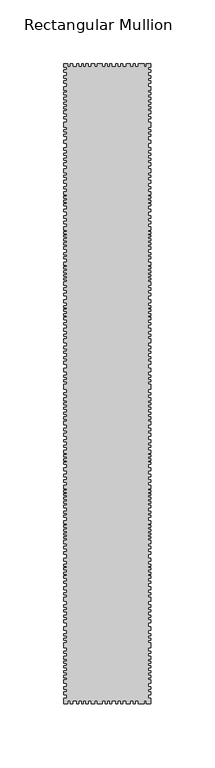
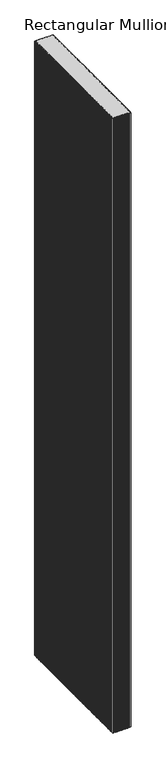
"""IFC4 building model written with IfcOpenShell, lengths in millimetres: member geometry, Rectangular Mullion : DucoSun Cubic Design louvre 500."""

from ifc_helpers import new_model, si_unit, frame, origin, place, context, project, spatial, polyline, outline, extrude, source, transform, mapped, element, save


def rectangular_mullion_85800288(model_context):
    return source(origin(), model_context, "Body", "SweptSolid", [
        extrude(outline(polyline([(0.0, 497.3782451), (-2.0, 497.3782451), (-2.0, 495.4241521), (0.0, 495.4241521), (0.0, 493.6532553), (-2.0, 493.6532553), (-2.0, 490.9460223), (0.0, 490.9460223), (0.0, 488.9105087), (-2.0, 488.9105087), (-2.0, 486.7121541), (0.0, 486.7121541), (0.0, 485.0023227), (-2.0, 485.0023227), (-2.0, 482.3561551), (0.0, 482.3561551), (0.0, 479.3843053), (-2.0, 479.3843053), (-2.0, 477.8917893), (0.0, 477.8917893), (0.0, 475.8425117), (-2.0, 475.8425117), (-2.0, 473.8680636), (0.0, 473.8680636), (0.0, 472.1582322), (-2.0, 472.1582322), (-2.0, 470.0820083), (0.0, 470.0820083), (0.0, 468.3111116), (-2.0, 468.3111116), (-2.0, 466.4995045), (0.0, 466.4995045), (0.0, 465.0713495), (-2.0, 465.0713495), (-2.0, 463.4577392), (0.0, 463.4577392), (0.0, 461.0328231), (-2.0, 461.0328231), (-2.0, 458.5725067), (0.0, 458.5725067), (0.0, 457.0325964), (-2.0, 457.0325964), (-2.0, 454.5014796), (0.0, 454.5014796), (0.0, 450.4127524), (-2.0, 450.4127524), (-2.0, 448.4126391), (0.0, 448.4126391), (0.0, 446.8373286), (-2.0, 446.8373286), (-2.0, 444.9965163), (0.0, 444.9965163), (0.0, 443.3504053), (-2.0, 443.3504053), (-2.0, 440.3767855), (0.0, 440.3767855), (0.0, 437.9545244), (-2.0, 437.9545244), (-2.0, 434.5552168), (0.0, 434.5552168), (0.0, 432.5197032), (-2.0, 432.5197032), (-2.0, 430.239928), (0.0, 430.239928), (0.0, 428.6929377), (-2.0, 428.6929377), (-2.0, 426.4335177), (0.0, 426.4335177), (0.0, 424.5608452), (-2.0, 424.5608452), (-2.0, 422.6271073), (0.0, 422.6271073), (0.0, 420.5508835), (-2.0, 420.5508835), (-2.0, 418.0064916), (0.0, 418.0064916), (0.0, 414.9328661), (-2.0, 414.9328661), (-2.0, 412.9177077), (0.0, 412.9177077), (0.0, 411.4114277), (-2.0, 411.4114277), (-2.0, 408.9688114), (0.0, 408.9688114), (0.0, 406.7118273), (-2.0, 406.7118273), (-2.0, 403.8852623), (0.0, 403.8852623), (0.0, 402.4316003), (-2.0, 402.4316003), (-2.0, 399.9011516), (0.0, 399.9011516), (0.0, 397.8552569), (-2.0, 397.8552569), (-2.0, 396.6169522), (0.0, 396.6169522), (0.0, 395.0825312), (-2.0, 395.0825312), (-2.0, 393.4673512), (0.0, 393.4673512), (0.0, 392.0675286), (-2.0, 392.0675286), (-2.0, 390.5869469), (0.0, 390.5869469), (0.0, 389.1602046), (-2.0, 389.1602046), (-2.0, 386.3310055), (0.0, 386.3310055), (0.0, 384.2608252), (-2.0, 384.2608252), (-2.0, 381.1919832), (0.0, 381.1919832), (0.0, 379.2537672), (-2.0, 379.2537672), (-2.0, 376.9360418), (0.0, 376.9360418), (0.0, 375.0004598), (-2.0, 375.0004598), (-2.0, 372.9007258), (0.0, 372.9007258), (0.0, 370.1010805), (-2.0, 370.1010805), (-2.0, 368.8089365), (0.0, 368.8089365), (0.0, 367.3014351), (-2.0, 367.3014351), (-2.0, 366.0362108), (0.0, 366.0362108), (0.0, 365.0401831), (-2.0, 365.0401831), (-2.0, 363.2096458), (0.0, 363.2096458), (0.0, 361.6483051), (-2.0, 361.6483051), (-2.0, 360.1408038), (0.0, 360.1408038), (0.0, 358.6063828), (-2.0, 358.6063828), (-2.0, 357.0719618), (0.0, 357.0719618), (0.0, 355.0799064), (-2.0, 355.0799064), (-2.0, 352.3762692), (0.0, 352.3762692), (0.0, 350.8903036), (-2.0, 350.8903036), (-2.0, 349.1257194), (0.0, 349.1257194), (0.0, 347.6087962), (-2.0, 347.6087962), (-2.0, 344.8535683), (0.0, 344.8535683), (0.0, 342.7484504), (-2.0, 342.7484504), (-2.0, 341.4172729), (0.0, 341.4172729), (0.0, 339.9622649), (-2.0, 339.9622649), (-2.0, 338.3524688), (0.0, 338.3524688), (0.0, 336.8355456), (-2.0, 336.8355456), (-2.0, 335.1947919), (0.0, 335.1947919), (0.0, 333.9255296), (-2.0, 333.9255296), (-2.0, 332.5014792), (0.0, 332.5014792), (0.0, 331.1083865), (-2.0, 331.1083865), (-2.0, 329.6843361), (0.0, 329.6843361), (0.0, 327.0529387), (-2.0, 327.0529387), (-2.0, 324.9787784), (0.0, 324.9787784), (0.0, 323.0284485), (-2.0, 323.0284485), (-2.0, 320.7995001), (0.0, 320.7995001), (0.0, 318.8182126), (-2.0, 318.8182126), (-2.0, 315.6914933), (0.0, 315.6914933), (0.0, 313.4935025), (-2.0, 313.4935025), (-2.0, 310.954978), (0.0, 310.954978), (0.0, 309.4070971), (-2.0, 309.4070971), (-2.0, 308.1378348), (0.0, 308.1378348), (0.0, 306.4970812), (-2.0, 306.4970812), (-2.0, 304.8253698), (0.0, 304.8253698), (0.0, 303.3394042), (-2.0, 303.3394042), (-2.0, 302.0391843), (0.0, 302.0391843), (0.0, 300.0578969), (-2.0, 300.0578969), (-2.0, 297.6741604), (0.0, 297.6741604), (0.0, 296.0953219), (-2.0, 296.0953219), (-2.0, 293.3091364), (0.0, 293.3091364), (0.0, 291.0182728), (-2.0, 291.0182728), (-2.0, 288.572621), (0.0, 288.572621), (0.0, 287.1485707), (-2.0, 287.1485707), (-2.0, 285.0124951), (0.0, 285.0124951), (0.0, 282.1643944), (-2.0, 282.1643944), (-2.0, 279.3782089), (0.0, 279.3782089), (0.0, 277.427879), (-2.0, 277.427879), (-2.0, 275.4156339), (0.0, 275.4156339), (0.0, 273.6510498), (-2.0, 273.6510498), (-2.0, 271.1744404), (0.0, 271.1744404), (0.0, 269.6884748), (-2.0, 269.6884748), (-2.0, 267.5523993), (0.0, 267.5523993), (0.0, 265.4163237), (-2.0, 265.4163237), (-2.0, 262.1967316), (0.0, 262.1967316), (0.0, 259.5343765), (-2.0, 259.5343765), (-2.0, 256.7791486), (0.0, 256.7791486), (0.0, 255.0764797), (-2.0, 255.0764797), (-2.0, 252.9404041), (0.0, 252.9404041), (0.0, 251.6092266), (-2.0, 251.6092266), (-2.0, 249.5660239), (0.0, 249.5660239), (0.0, 245.512038), (-2.0, 245.512038), (-2.0, 243.0030092), (0.0, 243.0030092), (0.0, 241.3312979), (-2.0, 241.3312979), (-2.0, 239.0404342), (0.0, 239.0404342), (0.0, 236.5638249), (-2.0, 236.5638249), (-2.0, 235.015944), (0.0, 235.015944), (0.0, 233.5609361), (-2.0, 233.5609361), (-2.0, 231.5796486), (0.0, 231.5796486), (0.0, 230.0627254), (-2.0, 230.0627254), (-2.0, 227.8337769), (0.0, 227.8337769), (0.0, 226.1620656), (-2.0, 226.1620656), (-2.0, 224.0259901), (0.0, 224.0259901), (0.0, 222.0756602), (-2.0, 222.0756602), (-2.0, 220.6516099), (0.0, 220.6516099), (0.0, 217.7415939), (-2.0, 217.7415939), (-2.0, 215.2030693), (0.0, 215.2030693), (0.0, 213.1908242), (-2.0, 213.1908242), (-2.0, 211.2404944), (0.0, 211.2404944), (0.0, 209.1353764), (-2.0, 209.1353764), (-2.0, 206.2563181), (0.0, 206.2563181), (0.0, 203.7186411), (-2.0, 203.7186411), (-2.0, 201.7889994), (0.0, 201.7889994), (0.0, 200.3353374), (-2.0, 200.3353374), (-2.0, 197.8048887), (0.0, 197.8048887), (0.0, 195.758994), (-2.0, 195.758994), (-2.0, 194.5206893), (0.0, 194.5206893), (0.0, 192.9862683), (-2.0, 192.9862683), (-2.0, 191.3710883), (0.0, 191.3710883), (0.0, 189.9712657), (-2.0, 189.9712657), (-2.0, 188.490684), (0.0, 188.490684), (0.0, 187.0639417), (-2.0, 187.0639417), (-2.0, 184.2347426), (0.0, 184.2347426), (0.0, 182.1645623), (-2.0, 182.1645623), (-2.0, 179.0957203), (0.0, 179.0957203), (0.0, 177.1575043), (-2.0, 177.1575043), (-2.0, 174.8397789), (0.0, 174.8397789), (0.0, 172.9041969), (-2.0, 172.9041969), (-2.0, 170.8044629), (0.0, 170.8044629), (0.0, 168.0048176), (-2.0, 168.0048176), (-2.0, 166.7126736), (0.0, 166.7126736), (0.0, 165.2051722), (-2.0, 165.2051722), (-2.0, 163.9399479), (0.0, 163.9399479), (0.0, 162.9439202), (-2.0, 162.9439202), (-2.0, 161.1133829), (0.0, 161.1133829), (0.0, 159.5520422), (-2.0, 159.5520422), (-2.0, 158.0445409), (0.0, 158.0445409), (0.0, 156.5101199), (-2.0, 156.5101199), (-2.0, 154.9756989), (0.0, 154.9756989), (0.0, 152.9836435), (-2.0, 152.9836435), (-2.0, 150.2800063), (0.0, 150.2800063), (0.0, 148.7940407), (-2.0, 148.7940407), (-2.0, 147.0294565), (0.0, 147.0294565), (0.0, 145.5125333), (-2.0, 145.5125333), (-2.0, 142.7573054), (0.0, 142.7573054), (0.0, 140.6521875), (-2.0, 140.6521875), (-2.0, 139.32101), (0.0, 139.32101), (0.0, 137.866002), (-2.0, 137.866002), (-2.0, 136.2562059), (0.0, 136.2562059), (0.0, 134.7392827), (-2.0, 134.7392827), (-2.0, 133.098529), (0.0, 133.098529), (0.0, 131.8292667), (-2.0, 131.8292667), (-2.0, 130.4052163), (0.0, 130.4052163), (0.0, 129.0121236), (-2.0, 129.0121236), (-2.0, 127.5880732), (0.0, 127.5880732), (0.0, 124.9566758), (-2.0, 124.9566758), (-2.0, 122.8825155), (0.0, 122.8825155), (0.0, 120.9321856), (-2.0, 120.9321856), (-2.0, 118.7032372), (0.0, 118.7032372), (0.0, 116.7219497), (-2.0, 116.7219497), (-2.0, 113.5952304), (0.0, 113.5952304), (0.0, 111.3972396), (-2.0, 111.3972396), (-2.0, 108.8587151), (0.0, 108.8587151), (0.0, 107.3108342), (-2.0, 107.3108342), (-2.0, 106.0415719), (0.0, 106.0415719), (0.0, 104.4008183), (-2.0, 104.4008183), (-2.0, 102.7291069), (0.0, 102.7291069), (0.0, 101.2431413), (-2.0, 101.2431413), (-2.0, 99.9429214), (0.0, 99.9429214), (0.0, 97.961634), (-2.0, 97.961634), (-2.0, 95.5778975), (0.0, 95.5778975), (0.0, 93.999059), (-2.0, 93.999059), (-2.0, 91.2128735), (0.0, 91.2128735), (0.0, 88.9220099), (-2.0, 88.9220099), (-2.0, 86.4763581), (0.0, 86.4763581), (0.0, 85.0523078), (-2.0, 85.0523078), (-2.0, 82.9162322), (0.0, 82.9162322), (0.0, 80.0681315), (-2.0, 80.0681315), (-2.0, 77.281946), (0.0, 77.281946), (0.0, 75.3316161), (-2.0, 75.3316161), (-2.0, 73.319371), (0.0, 73.319371), (0.0, 71.5547869), (-2.0, 71.5547869), (-2.0, 69.0781775), (0.0, 69.0781775), (0.0, 67.5922119), (-2.0, 67.5922119), (-2.0, 65.4561364), (0.0, 65.4561364), (0.0, 63.3200608), (-2.0, 63.3200608), (-2.0, 60.1004687), (0.0, 60.1004687), (0.0, 57.4381136), (-2.0, 57.4381136), (-2.0, 54.6828857), (0.0, 54.6828857), (0.0, 52.9802168), (-2.0, 52.9802168), (-2.0, 50.8441412), (0.0, 50.8441412), (0.0, 49.5129637), (-2.0, 49.5129637), (-2.0, 47.469761), (0.0, 47.469761), (0.0, 43.4157751), (-2.0, 43.4157751), (-2.0, 40.9067463), (0.0, 40.9067463), (0.0, 39.235035), (-2.0, 39.235035), (-2.0, 36.9441713), (0.0, 36.9441713), (0.0, 34.467562), (-2.0, 34.467562), (-2.0, 32.9196811), (0.0, 32.9196811), (0.0, 31.4646731), (-2.0, 31.4646731), (-2.0, 29.4833857), (0.0, 29.4833857), (0.0, 27.9664625), (-2.0, 27.9664625), (-2.0, 25.737514), (0.0, 25.737514), (0.0, 24.0658027), (-2.0, 24.0658027), (-2.0, 21.9297272), (0.0, 21.9297272), (0.0, 19.9793973), (-2.0, 19.9793973), (-2.0, 18.555347), (0.0, 18.555347), (0.0, 15.645331), (-2.0, 15.645331), (-2.0, 13.1068064), (0.0, 13.1068064), (0.0, 11.0945613), (-2.0, 11.0945613), (-2.0, 9.1442315), (0.0, 9.1442315), (0.0, 7.0391135), (-2.0, 7.0391135), (-2.0, 4.0), (0.0, 4.0), (0.0, 0.0), (-3.5455586, 0.0), (-3.5455586, 2.0), (-5.372058, 2.0), (-5.372058, 0.0), (-10.0157006, 0.0), (-10.0157006, 2.0), (-12.1827337, 2.0), (-12.1827337, 0.0), (-13.6996569, 0.0), (-13.6996569, 2.0), (-16.0524358, 2.0), (-16.0524358, 0.0), (-19.1172399, 0.0), (-19.1172399, 2.0), (-21.9034254, 2.0), (-21.9034254, 0.0), (-23.6060943, 0.0), (-23.6060943, 2.0), (-25.9898308, 2.0), (-25.9898308, 0.0), (-27.4757964, 0.0), (-27.4757964, 2.0), (-30.5115322, 2.0), (-30.5115322, 0.0), (-32.2905711, 0.0), (-32.2905711, 2.0), (-34.0, 2.0), (-34.0, 0.0), (-35.8486488, 0.0), (-35.8486488, 2.0), (-38.2128978, 2.0), (-38.2128978, 0.0), (-41.9816511, 0.0), (-41.9816511, 2.0), (-44.0415908, 2.0), (-44.0415908, 0.0), (-46.7335575, 0.0), (-46.7335575, 2.0), (-49.0041729, 2.0), (-49.0041729, 0.0), (-50.8768453, 0.0), (-50.8768453, 2.0), (-52.9367851, 2.0), (-52.9367851, 0.0), (-54.2710642, 0.0), (-54.2710642, 2.0), (-56.3075955, 2.0), (-56.3075955, 0.0), (-57.8993671, 0.0), (-57.8993671, 2.0), (-60.9658683, 2.0), (-60.9658683, 0.0), (-62.9321744, 0.0), (-62.9321744, 2.0), (-64.8750721, 2.0), (-64.8750721, 0.0), (-68.0, 0.0), (-68.0, 4.0), (-66.0, 4.0), (-66.0, 7.0391135), (-68.0, 7.0391135), (-68.0, 9.1442315), (-66.0, 9.1442315), (-66.0, 11.0945613), (-68.0, 11.0945613), (-68.0, 13.1068064), (-66.0, 13.1068064), (-66.0, 15.645331), (-68.0, 15.645331), (-68.0, 18.555347), (-66.0, 18.555347), (-66.0, 19.9793973), (-68.0, 19.9793973), (-68.0, 21.9297272), (-66.0, 21.9297272), (-66.0, 24.0658027), (-68.0, 24.0658027), (-68.0, 25.737514), (-66.0, 25.737514), (-66.0, 27.9664625), (-68.0, 27.9664625), (-68.0, 29.4833857), (-66.0, 29.4833857), (-66.0, 31.4646731), (-68.0, 31.4646731), (-68.0, 32.9196811), (-66.0, 32.9196811), (-66.0, 34.467562), (-68.0, 34.467562), (-68.0, 36.9441713), (-66.0, 36.9441713), (-66.0, 39.235035), (-68.0, 39.235035), (-68.0, 40.9067463), (-66.0, 40.9067463), (-66.0, 43.4157751), (-68.0, 43.4157751), (-68.0, 47.469761), (-66.0, 47.469761), (-66.0, 49.5129637), (-68.0, 49.5129637), (-68.0, 50.8441412), (-66.0, 50.8441412), (-66.0, 52.9802168), (-68.0, 52.9802168), (-68.0, 54.6828857), (-66.0, 54.6828857), (-66.0, 57.4381136), (-68.0, 57.4381136), (-68.0, 60.1004687), (-66.0, 60.1004687), (-66.0, 63.3200608), (-68.0, 63.3200608), (-68.0, 65.4561364), (-66.0, 65.4561364), (-66.0, 67.5922119), (-68.0, 67.5922119), (-68.0, 69.0781775), (-66.0, 69.0781775), (-66.0, 71.5547869), (-68.0, 71.5547869), (-68.0, 73.319371), (-66.0, 73.319371), (-66.0, 75.3316161), (-68.0, 75.3316161), (-68.0, 77.281946), (-66.0, 77.281946), (-66.0, 80.0681315), (-68.0, 80.0681315), (-68.0, 82.9162322), (-66.0, 82.9162322), (-66.0, 85.0523078), (-68.0, 85.0523078), (-68.0, 86.4763581), (-66.0, 86.4763581), (-66.0, 88.9220099), (-68.0, 88.9220099), (-68.0, 91.2128735), (-66.0, 91.2128735), (-66.0, 93.999059), (-68.0, 93.999059), (-68.0, 95.5778975), (-66.0, 95.5778975), (-66.0, 97.961634), (-68.0, 97.961634), (-68.0, 99.9429214), (-66.0, 99.9429214), (-66.0, 101.2431413), (-68.0, 101.2431413), (-68.0, 102.7291069), (-66.0, 102.7291069), (-66.0, 104.4008183), (-68.0, 104.4008183), (-68.0, 106.0415719), (-66.0, 106.0415719), (-66.0, 107.3108342), (-68.0, 107.3108342), (-68.0, 108.8587151), (-66.0, 108.8587151), (-66.0, 111.3972396), (-68.0, 111.3972396), (-68.0, 113.5952304), (-66.0, 113.5952304), (-66.0, 116.7219497), (-68.0, 116.7219497), (-68.0, 118.7032372), (-66.0, 118.7032372), (-66.0, 120.9321856), (-68.0, 120.9321856), (-68.0, 122.8825155), (-66.0, 122.8825155), (-66.0, 124.9566758), (-68.0, 124.9566758), (-68.0, 127.5880732), (-66.0, 127.5880732), (-66.0, 129.0121236), (-68.0, 129.0121236), (-68.0, 130.4052163), (-66.0, 130.4052163), (-66.0, 131.8292667), (-68.0, 131.8292667), (-68.0, 133.098529), (-66.0, 133.098529), (-66.0, 134.7392827), (-68.0, 134.7392827), (-68.0, 136.2562059), (-66.0, 136.2562059), (-66.0, 137.866002), (-68.0, 137.866002), (-68.0, 139.32101), (-66.0, 139.32101), (-66.0, 140.6521875), (-68.0, 140.6521875), (-68.0, 142.7573054), (-66.0, 142.7573054), (-66.0, 145.5125333), (-68.0, 145.5125333), (-68.0, 147.0294565), (-66.0, 147.0294565), (-66.0, 148.7940407), (-68.0, 148.7940407), (-68.0, 150.2800063), (-66.0, 150.2800063), (-66.0, 152.9836435), (-68.0, 152.9836435), (-68.0, 154.9756989), (-66.0, 154.9756989), (-66.0, 156.5101199), (-68.0, 156.5101199), (-68.0, 158.0445409), (-66.0, 158.0445409), (-66.0, 159.5520422), (-68.0, 159.5520422), (-68.0, 161.1133829), (-66.0, 161.1133829), (-66.0, 162.9439202), (-68.0, 162.9439202), (-68.0, 163.9399479), (-66.0, 163.9399479), (-66.0, 165.2051722), (-68.0, 165.2051722), (-68.0, 166.7126736), (-66.0, 166.7126736), (-66.0, 168.0048176), (-68.0, 168.0048176), (-68.0, 170.8044629), (-66.0, 170.8044629), (-66.0, 172.9041969), (-68.0, 172.9041969), (-68.0, 174.8397789), (-66.0, 174.8397789), (-66.0, 177.1575043), (-68.0, 177.1575043), (-68.0, 179.0957203), (-66.0, 179.0957203), (-66.0, 182.1645623), (-68.0, 182.1645623), (-68.0, 184.2347426), (-66.0, 184.2347426), (-66.0, 187.0639417), (-68.0, 187.0639417), (-68.0, 188.490684), (-66.0, 188.490684), (-66.0, 189.9712657), (-68.0, 189.9712657), (-68.0, 191.3710883), (-66.0, 191.3710883), (-66.0, 192.9862683), (-68.0, 192.9862683), (-68.0, 194.5206893), (-66.0, 194.5206893), (-66.0, 195.758994), (-68.0, 195.758994), (-68.0, 197.8048887), (-66.0, 197.8048887), (-66.0, 200.3353374), (-68.0, 200.3353374), (-68.0, 201.7889994), (-66.0, 201.7889994), (-66.0, 204.6155644), (-68.0, 204.6155644), (-68.0, 206.2563181), (-66.0, 206.2563181), (-66.0, 209.1353764), (-68.0, 209.1353764), (-68.0, 211.2404944), (-66.0, 211.2404944), (-66.0, 213.1908242), (-68.0, 213.1908242), (-68.0, 215.2030693), (-66.0, 215.2030693), (-66.0, 217.7415939), (-68.0, 217.7415939), (-68.0, 220.6516099), (-66.0, 220.6516099), (-66.0, 222.0756602), (-68.0, 222.0756602), (-68.0, 224.0259901), (-66.0, 224.0259901), (-66.0, 226.1620656), (-68.0, 226.1620656), (-68.0, 227.8337769), (-66.0, 227.8337769), (-66.0, 230.0627254), (-68.0, 230.0627254), (-68.0, 231.5796486), (-66.0, 231.5796486), (-66.0, 233.5609361), (-68.0, 233.5609361), (-68.0, 235.015944), (-66.0, 235.015944), (-66.0, 236.5638249), (-68.0, 236.5638249), (-68.0, 239.0404342), (-66.0, 239.0404342), (-66.0, 241.3312979), (-68.0, 241.3312979), (-68.0, 243.0030092), (-66.0, 243.0030092), (-66.0, 245.512038), (-68.0, 245.512038), (-68.0, 249.5660239), (-66.0, 249.5660239), (-66.0, 251.6092266), (-68.0, 251.6092266), (-68.0, 252.9404041), (-66.0, 252.9404041), (-66.0, 255.0764797), (-68.0, 255.0764797), (-68.0, 256.7791486), (-66.0, 256.7791486), (-66.0, 259.5343765), (-68.0, 259.5343765), (-68.0, 262.1967316), (-66.0, 262.1967316), (-66.0, 265.4163237), (-68.0, 265.4163237), (-68.0, 267.5523993), (-66.0, 267.5523993), (-66.0, 269.6884748), (-68.0, 269.6884748), (-68.0, 271.1744404), (-66.0, 271.1744404), (-66.0, 273.6510498), (-68.0, 273.6510498), (-68.0, 275.4156339), (-66.0, 275.4156339), (-66.0, 277.427879), (-68.0, 277.427879), (-68.0, 279.3782089), (-66.0, 279.3782089), (-66.0, 282.1643944), (-68.0, 282.1643944), (-68.0, 285.0124951), (-66.0, 285.0124951), (-66.0, 287.1485707), (-68.0, 287.1485707), (-68.0, 288.572621), (-66.0, 288.572621), (-66.0, 291.0182728), (-68.0, 291.0182728), (-68.0, 293.3091364), (-66.0, 293.3091364), (-66.0, 296.0953219), (-68.0, 296.0953219), (-68.0, 297.6741604), (-66.0, 297.6741604), (-66.0, 300.0578969), (-68.0, 300.0578969), (-68.0, 302.0391843), (-66.0, 302.0391843), (-66.0, 303.3394042), (-68.0, 303.3394042), (-68.0, 304.8253698), (-66.0, 304.8253698), (-66.0, 306.4970812), (-68.0, 306.4970812), (-68.0, 308.1378348), (-66.0, 308.1378348), (-66.0, 309.4070971), (-68.0, 309.4070971), (-68.0, 310.954978), (-66.0, 310.954978), (-66.0, 313.4935025), (-68.0, 313.4935025), (-68.0, 315.6914933), (-66.0, 315.6914933), (-66.0, 318.8182126), (-68.0, 318.8182126), (-68.0, 320.7995001), (-66.0, 320.7995001), (-66.0, 323.0284485), (-68.0, 323.0284485), (-68.0, 324.9787784), (-66.0, 324.9787784), (-66.0, 327.0529387), (-68.0, 327.0529387), (-68.0, 329.6843361), (-66.0, 329.6843361), (-66.0, 331.1083865), (-68.0, 331.1083865), (-68.0, 332.5014792), (-66.0, 332.5014792), (-66.0, 333.9255296), (-68.0, 333.9255296), (-68.0, 335.1947919), (-66.0, 335.1947919), (-66.0, 336.8355456), (-68.0, 336.8355456), (-68.0, 338.3524688), (-66.0, 338.3524688), (-66.0, 339.9622649), (-68.0, 339.9622649), (-68.0, 341.4172729), (-66.0, 341.4172729), (-66.0, 342.7484504), (-68.0, 342.7484504), (-68.0, 344.8535683), (-66.0, 344.8535683), (-66.0, 347.6087962), (-68.0, 347.6087962), (-68.0, 349.1257194), (-66.0, 349.1257194), (-66.0, 350.8903036), (-68.0, 350.8903036), (-68.0, 352.3762692), (-66.0, 352.3762692), (-66.0, 355.0799064), (-68.0, 355.0799064), (-68.0, 357.0719618), (-66.0, 357.0719618), (-66.0, 358.6063828), (-68.0, 358.6063828), (-68.0, 360.1408038), (-66.0, 360.1408038), (-66.0, 361.6483051), (-68.0, 361.6483051), (-68.0, 363.2096458), (-66.0, 363.2096458), (-66.0, 365.0401831), (-68.0, 365.0401831), (-68.0, 366.0362108), (-66.0, 366.0362108), (-66.0, 367.3014351), (-68.0, 367.3014351), (-68.0, 368.8089365), (-66.0, 368.8089365), (-66.0, 370.1010805), (-68.0, 370.1010805), (-68.0, 372.9007258), (-66.0, 372.9007258), (-66.0, 375.0004598), (-68.0, 375.0004598), (-68.0, 376.9360418), (-66.0, 376.9360418), (-66.0, 379.2537672), (-68.0, 379.2537672), (-68.0, 381.1919832), (-66.0, 381.1919832), (-66.0, 384.2608252), (-68.0, 384.2608252), (-68.0, 386.3310055), (-66.0, 386.3310055), (-66.0, 389.1602046), (-68.0, 389.1602046), (-68.0, 390.5869469), (-66.0, 390.5869469), (-66.0, 392.0675286), (-68.0, 392.0675286), (-68.0, 393.4673512), (-66.0, 393.4673512), (-66.0, 395.0825312), (-68.0, 395.0825312), (-68.0, 396.6169522), (-66.0, 396.6169522), (-66.0, 397.8552569), (-68.0, 397.8552569), (-68.0, 399.9011516), (-66.0, 399.9011516), (-66.0, 402.4316003), (-68.0, 402.4316003), (-68.0, 403.8852623), (-66.0, 403.8852623), (-66.0, 406.7118273), (-68.0, 406.7118273), (-68.0, 408.9688114), (-66.0, 408.9688114), (-66.0, 411.4114277), (-68.0, 411.4114277), (-68.0, 412.9177077), (-66.0, 412.9177077), (-66.0, 414.9328661), (-68.0, 414.9328661), (-68.0, 418.0064916), (-66.0, 418.0064916), (-66.0, 420.5508835), (-68.0, 420.5508835), (-68.0, 422.6271073), (-66.0, 422.6271073), (-66.0, 424.5608452), (-68.0, 424.5608452), (-68.0, 426.4335177), (-66.0, 426.4335177), (-66.0, 428.6929377), (-68.0, 428.6929377), (-68.0, 430.239928), (-66.0, 430.239928), (-66.0, 432.5197032), (-68.0, 432.5197032), (-68.0, 434.5552168), (-66.0, 434.5552168), (-66.0, 437.9545244), (-68.0, 437.9545244), (-68.0, 440.3767855), (-66.0, 440.3767855), (-66.0, 443.3504053), (-68.0, 443.3504053), (-68.0, 444.9965163), (-66.0, 444.9965163), (-66.0, 446.8373286), (-68.0, 446.8373286), (-68.0, 448.4126391), (-66.0, 448.4126391), (-66.0, 450.4127524), (-68.0, 450.4127524), (-68.0, 454.5014796), (-66.0, 454.5014796), (-66.0, 457.0325964), (-68.0, 457.0325964), (-68.0, 458.5725067), (-66.0, 458.5725067), (-66.0, 461.0328231), (-68.0, 461.0328231), (-68.0, 463.4577392), (-66.0, 463.4577392), (-66.0, 465.0713495), (-68.0, 465.0713495), (-68.0, 466.4995045), (-66.0, 466.4995045), (-66.0, 468.3111116), (-68.0, 468.3111116), (-68.0, 470.0820083), (-66.0, 470.0820083), (-66.0, 472.1582322), (-68.0, 472.1582322), (-68.0, 473.8680636), (-66.0, 473.8680636), (-66.0, 475.8425117), (-68.0, 475.8425117), (-68.0, 477.8917893), (-66.0, 477.8917893), (-66.0, 479.3843053), (-68.0, 479.3843053), (-68.0, 482.3561551), (-66.0, 482.3561551), (-66.0, 485.0023227), (-68.0, 485.0023227), (-68.0, 486.7121541), (-66.0, 486.7121541), (-66.0, 488.9105087), (-68.0, 488.9105087), (-68.0, 490.9460223), (-66.0, 490.9460223), (-66.0, 493.6532553), (-68.0, 493.6532553), (-68.0, 495.4241521), (-66.0, 495.4241521), (-66.0, 497.3782451), (-68.0, 497.3782451), (-68.0, 500.0), (-64.8750721, 500.0), (-64.8750721, 498.0), (-62.9321744, 498.0), (-62.9321744, 500.0), (-60.9658683, 500.0), (-60.9658683, 498.0), (-57.8993671, 498.0), (-57.8993671, 500.0), (-56.3075955, 500.0), (-56.3075955, 498.0), (-54.2710642, 498.0), (-54.2710642, 500.0), (-52.9367851, 500.0), (-52.9367851, 498.0), (-50.8768453, 498.0), (-50.8768453, 500.0), (-49.0041729, 500.0), (-49.0041729, 498.0), (-46.7335575, 498.0), (-46.7335575, 500.0), (-44.0415908, 500.0), (-44.0415908, 498.0), (-41.9816511, 498.0), (-41.9816511, 500.0), (-38.2128978, 500.0), (-38.2128978, 498.0), (-35.8486488, 498.0), (-35.8486488, 500.0), (-34.0, 500.0), (-34.0, 498.0), (-32.2905711, 498.0), (-32.2905711, 500.0), (-30.5115322, 500.0), (-30.5115322, 498.0), (-27.4757964, 498.0), (-27.4757964, 500.0), (-25.9898308, 500.0), (-25.9898308, 498.0), (-23.6060943, 498.0), (-23.6060943, 500.0), (-21.9034254, 500.0), (-21.9034254, 498.0), (-19.1172399, 498.0), (-19.1172399, 500.0), (-16.0524358, 500.0), (-16.0524358, 498.0), (-13.6996569, 498.0), (-13.6996569, 500.0), (-12.1827337, 500.0), (-12.1827337, 498.0), (-10.0157006, 498.0), (-10.0157006, 500.0), (-5.372058, 500.0), (-5.372058, 498.0), (-3.5455586, 498.0), (-3.5455586, 500.0), (0.0, 500.0), (0.0, 497.3782451)])), frame((0.0, 0.0, -2400.0), z_axis=(0.0, 0.0, 1.0), x_axis=(1.0, 0.0, 0.0)), (0.0, 0.0, 1.0), 2400.0),
    ])


if __name__ == "__main__":
    model = new_model("IFC4")
    model_context = context("Model", 3, world=origin())
    ifc_project = project(units=[si_unit("LENGTHUNIT", "METRE", prefix="MILLI")], contexts=[model_context])
    site = spatial("IfcSite", under=ifc_project)
    building = spatial("IfcBuilding", under=site)
    placement = place(None, origin())
    rectangular_mullion_shape = rectangular_mullion_85800288(model_context)
    element("IfcMember", 1, ObjectType="Rectangular Mullion : DucoSun Cubic Design louvre 500", at=placement, inside=building, context=model_context, shape_type="MappedRepresentation", body=[
        mapped(rectangular_mullion_shape, transform((0.0, 0.0, 0.0), x_axis=(1.0, 0.0, 0.0), y_axis=(0.0, 1.0, 0.0), z_axis=(0.0, 0.0, 1.0))),
    ])
    save(model, "model.ifc")
